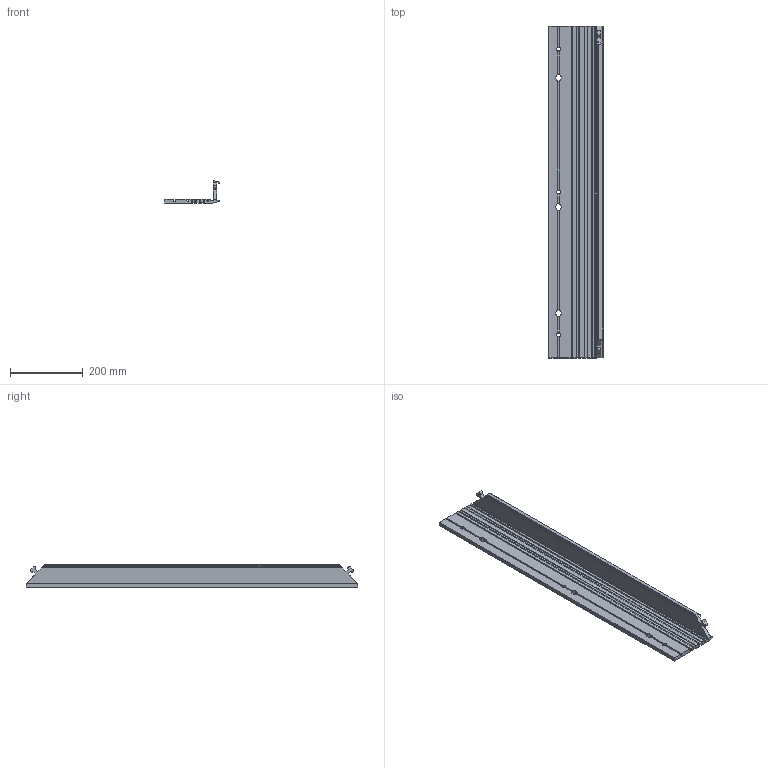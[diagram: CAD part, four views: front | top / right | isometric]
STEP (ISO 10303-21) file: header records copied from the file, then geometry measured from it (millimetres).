
FILE_DESCRIPTION(/* description */ (''),/* implementation_level */ '2;1');
FILE_NAME(/* name */ 'C:\Users\maxzh\Desktop\USBP\03.01.2018\STEP\Part3.stp',/* time_stamp */ '2018-03-01T13:49:41-05:00',/* author */ ('maxzh'),/* organization */ (''),/* preprocessor_version */ 'ST-DEVELOPER v15.6',/* originating_system */ 'Autodesk Inventor 2015',/* authorisation */ '');
FILE_SCHEMA (('AUTOMOTIVE_DESIGN { 1 0 10303 214 3 1 1 }'));
Length unit declared in the file: inch
Products named in the file (1): Part3
Bounding box: 150.23 x 914.4 x 61.98 mm (x, y, z)
Volume: 1734649.9 mm3; surface area: 586369.6 mm2
Topology: 5 solids, 5 shells, 279 faces, 821 edges, 545 vertices
Faces by surface type: cylinder 140, plane 139
Full cylindrical faces by diameter (mm): 10.719 x3
Entity records: 9909 total; most frequent: CARTESIAN_POINT 2367, ORIENTED_EDGE 1606, DIRECTION 1567, EDGE_CURVE 803, VERTEX_POINT 532, AXIS2_PLACEMENT_3D 526, LINE 515, VECTOR 515
